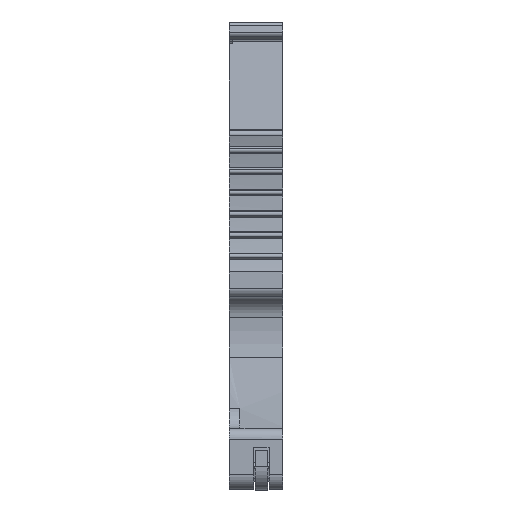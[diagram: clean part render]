
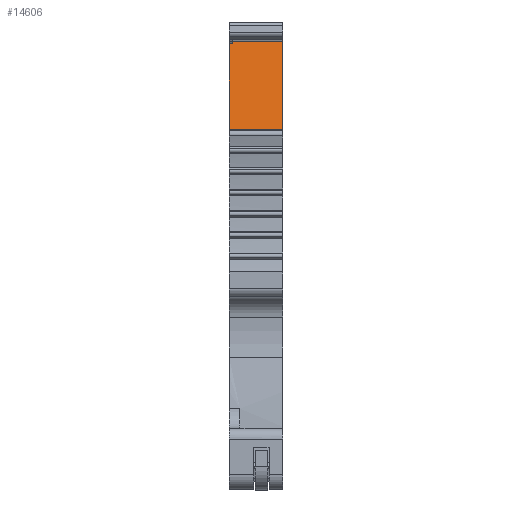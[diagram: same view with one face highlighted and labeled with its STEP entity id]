
A CAD part, front view. The second image highlights one B-rep face of the part: STEP entity #14606.
In plain terms, the highlighted planar face has unit normal (0, -0.985, 0.174).
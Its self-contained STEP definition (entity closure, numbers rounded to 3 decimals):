
#103 = ORIENTED_EDGE ( 'NONE', *, *, #17101, .T. ) ;
#143 = VECTOR ( 'NONE', #2956, 1000. ) ;
#235 = DIRECTION ( 'NONE',  ( 0., -0.174, -0.985 ) ) ;
#318 = LINE ( 'NONE', #12082, #6734 ) ;
#709 = CARTESIAN_POINT ( 'NONE',  ( 0., 2.812, 29.092 ) ) ;
#827 = VECTOR ( 'NONE', #13258, 1000. ) ;
#847 = VECTOR ( 'NONE', #3631, 1000. ) ;
#922 = CARTESIAN_POINT ( 'NONE',  ( 0.2, 1.801, 23.355 ) ) ;
#1008 = DIRECTION ( 'NONE',  ( 1., 0., 0. ) ) ;
#1220 = DIRECTION ( 'NONE',  ( -1., 0., 0. ) ) ;
#1494 = ORIENTED_EDGE ( 'NONE', *, *, #13859, .F. ) ;
#2089 = AXIS2_PLACEMENT_3D ( 'NONE', #2613, #6572, #1220 ) ;
#2209 = EDGE_CURVE ( 'NONE', #4485, #3944, #2905, .T. ) ;
#2399 = LINE ( 'NONE', #922, #11770 ) ;
#2460 = ORIENTED_EDGE ( 'NONE', *, *, #14689, .F. ) ;
#2613 = CARTESIAN_POINT ( 'NONE',  ( 1.75, 2.307, 26.223 ) ) ;
#2747 = ORIENTED_EDGE ( 'NONE', *, *, #12426, .T. ) ;
#2905 = LINE ( 'NONE', #6772, #827 ) ;
#2956 = DIRECTION ( 'NONE',  ( 1., 0., 0. ) ) ;
#3301 = LINE ( 'NONE', #4588, #143 ) ;
#3605 = DIRECTION ( 'NONE',  ( -1., 0., 0. ) ) ;
#3631 = DIRECTION ( 'NONE',  ( 0., 0.174, 0.985 ) ) ;
#3944 = VERTEX_POINT ( 'NONE', #15495 ) ;
#4485 = VERTEX_POINT ( 'NONE', #4564 ) ;
#4564 = CARTESIAN_POINT ( 'NONE',  ( 0.2, 1.775, 23.207 ) ) ;
#4566 = LINE ( 'NONE', #12084, #5855 ) ;
#4588 = CARTESIAN_POINT ( 'NONE',  ( 0.2, 2.838, 29.239 ) ) ;
#4730 = DIRECTION ( 'NONE',  ( 0., 0.174, 0.985 ) ) ;
#4905 = LINE ( 'NONE', #10431, #10798 ) ;
#4932 = VECTOR ( 'NONE', #4730, 1000. ) ;
#5324 = EDGE_CURVE ( 'NONE', #12198, #12248, #4566, .T. ) ;
#5446 = PLANE ( 'NONE',  #2089 ) ;
#5723 = EDGE_LOOP ( 'NONE', ( #2747, #2460, #9529, #1494, #6982, #9362, #12031, #103 ) ) ;
#5855 = VECTOR ( 'NONE', #235, 1000. ) ;
#6341 = CARTESIAN_POINT ( 'NONE',  ( 3.5, 1.775, 23.207 ) ) ;
#6572 = DIRECTION ( 'NONE',  ( 0., -0.985, 0.174 ) ) ;
#6734 = VECTOR ( 'NONE', #8191, 1000. ) ;
#6772 = CARTESIAN_POINT ( 'NONE',  ( 0.2, 1.775, 23.207 ) ) ;
#6982 = ORIENTED_EDGE ( 'NONE', *, *, #5324, .T. ) ;
#8191 = DIRECTION ( 'NONE',  ( 1., 0., 0. ) ) ;
#9323 = CARTESIAN_POINT ( 'NONE',  ( 0.2, 2.838, 29.239 ) ) ;
#9362 = ORIENTED_EDGE ( 'NONE', *, *, #12582, .F. ) ;
#9529 = ORIENTED_EDGE ( 'NONE', *, *, #16640, .F. ) ;
#9604 = VERTEX_POINT ( 'NONE', #11509 ) ;
#10431 = CARTESIAN_POINT ( 'NONE',  ( 0.2, 1.775, 23.207 ) ) ;
#10798 = VECTOR ( 'NONE', #1008, 1000. ) ;
#11509 = CARTESIAN_POINT ( 'NONE',  ( 3.5, 2.838, 29.239 ) ) ;
#11770 = VECTOR ( 'NONE', #3605, 1000. ) ;
#11939 = FACE_OUTER_BOUND ( 'NONE', #5723, .T. ) ;
#12031 = ORIENTED_EDGE ( 'NONE', *, *, #2209, .F. ) ;
#12082 = CARTESIAN_POINT ( 'NONE',  ( 0., 2.812, 29.092 ) ) ;
#12084 = CARTESIAN_POINT ( 'NONE',  ( 0., 2.812, 29.092 ) ) ;
#12198 = VERTEX_POINT ( 'NONE', #709 ) ;
#12248 = VERTEX_POINT ( 'NONE', #15244 ) ;
#12426 = EDGE_CURVE ( 'NONE', #14080, #9604, #13632, .T. ) ;
#12582 = EDGE_CURVE ( 'NONE', #3944, #12248, #2399, .T. ) ;
#13258 = DIRECTION ( 'NONE',  ( 0., 0.174, 0.985 ) ) ;
#13632 = LINE ( 'NONE', #16416, #4932 ) ;
#13859 = EDGE_CURVE ( 'NONE', #12198, #14974, #318, .T. ) ;
#14080 = VERTEX_POINT ( 'NONE', #6341 ) ;
#14606 = ADVANCED_FACE ( 'NONE', ( #11939 ), #5446, .T. ) ;
#14683 = CARTESIAN_POINT ( 'NONE',  ( 0.2, 2.812, 29.092 ) ) ;
#14689 = EDGE_CURVE ( 'NONE', #16994, #9604, #3301, .T. ) ;
#14974 = VERTEX_POINT ( 'NONE', #14683 ) ;
#15244 = CARTESIAN_POINT ( 'NONE',  ( 0., 1.801, 23.355 ) ) ;
#15495 = CARTESIAN_POINT ( 'NONE',  ( 0.2, 1.801, 23.355 ) ) ;
#16416 = CARTESIAN_POINT ( 'NONE',  ( 3.5, 1.775, 23.207 ) ) ;
#16533 = LINE ( 'NONE', #16783, #847 ) ;
#16640 = EDGE_CURVE ( 'NONE', #14974, #16994, #16533, .T. ) ;
#16783 = CARTESIAN_POINT ( 'NONE',  ( 0.2, 2.812, 29.092 ) ) ;
#16994 = VERTEX_POINT ( 'NONE', #9323 ) ;
#17101 = EDGE_CURVE ( 'NONE', #4485, #14080, #4905, .T. ) ;
